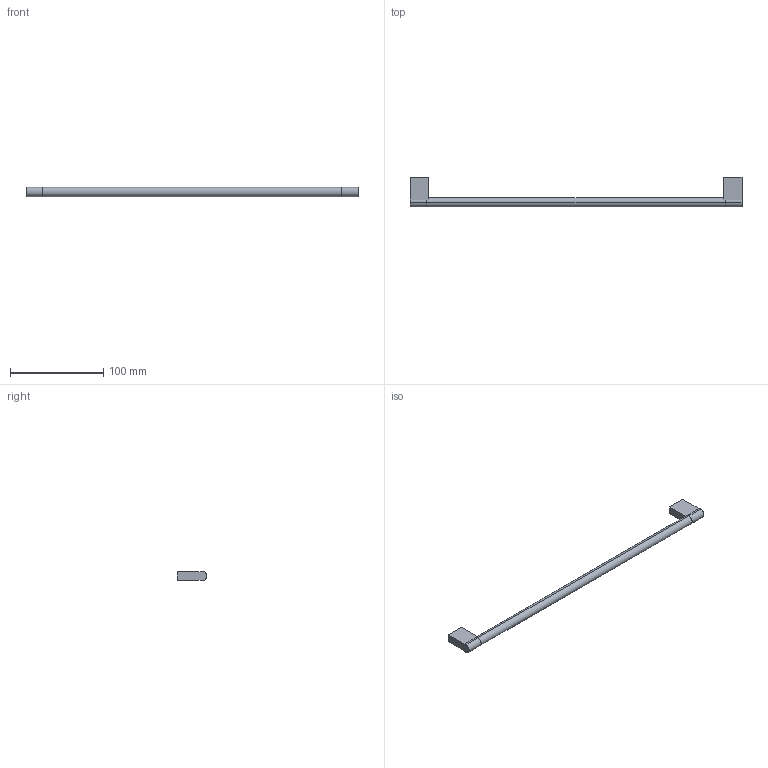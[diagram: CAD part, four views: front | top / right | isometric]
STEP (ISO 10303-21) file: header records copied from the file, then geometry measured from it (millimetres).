
FILE_DESCRIPTION( ( '' ), '1' );
FILE_NAME( 'C:/Documents and Settings/Sachin/Desktop/Sheet 10_1/stp/ 9070013.stp', '2013-10-22T10:06:28', ( '' ), ( '' ), ' ', ' ', ' ' );
FILE_SCHEMA( ( 'CONFIG_CONTROL_DESIGN' ) );
Length unit declared in the file: millimetre
Products named in the file (1): 1
Bounding box: 356 x 32 x 10 mm (x, y, z)
Volume: 35574.5 mm3; surface area: 14661.8 mm2
Topology: 1 solids, 1 shells, 30 faces, 70 edges, 44 vertices
Faces by surface type: plane 16, cylinder 14
Entity records: 906 total; most frequent: DIRECTION 164, CARTESIAN_POINT 145, ORIENTED_EDGE 140, EDGE_CURVE 70, AXIS2_PLACEMENT_3D 63, VERTEX_POINT 44, LINE 38, VECTOR 38
